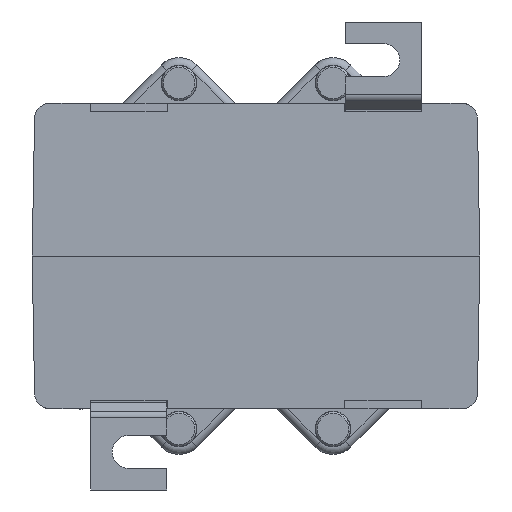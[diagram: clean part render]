
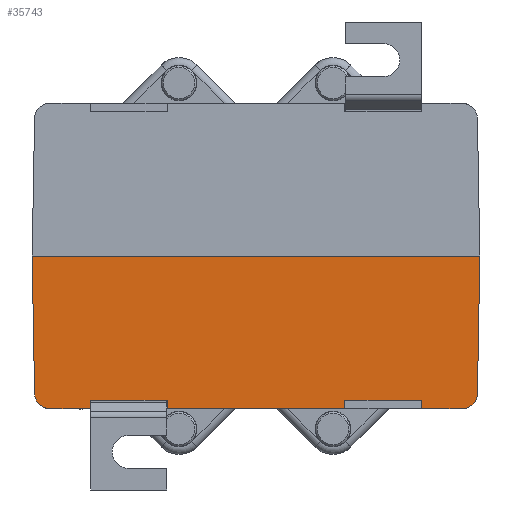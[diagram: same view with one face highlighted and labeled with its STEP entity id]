
A CAD part, front view. The second image highlights one B-rep face of the part: STEP entity #35743.
In plain terms, the highlighted planar face has unit normal (0, -1, -0.018).
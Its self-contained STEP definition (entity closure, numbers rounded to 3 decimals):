
#346=ELLIPSE('',#37993,3.,3.);
#347=ELLIPSE('',#37994,3.,3.);
#2423=LINE('',#59101,#6018);
#2789=LINE('',#61926,#6384);
#2795=LINE('',#61937,#6390);
#2799=LINE('',#61945,#6394);
#2842=LINE('',#62088,#6437);
#2843=LINE('',#62091,#6438);
#2844=LINE('',#62093,#6439);
#2845=LINE('',#62094,#6440);
#2846=LINE('',#62096,#6441);
#2847=LINE('',#62098,#6442);
#2848=LINE('',#62099,#6443);
#2849=LINE('',#62102,#6444);
#6018=VECTOR('',#41153,1000.);
#6384=VECTOR('',#41725,1000.);
#6390=VECTOR('',#41731,1000.);
#6394=VECTOR('',#41735,1000.);
#6437=VECTOR('',#41840,1000.);
#6438=VECTOR('',#41843,1000.);
#6439=VECTOR('',#41844,1000.);
#6440=VECTOR('',#41845,1000.);
#6441=VECTOR('',#41846,1000.);
#6442=VECTOR('',#41847,1000.);
#6443=VECTOR('',#41848,1000.);
#6444=VECTOR('',#41851,1000.);
#9296=PLANE('',#37992);
#10722=FACE_OUTER_BOUND('',#12711,.T.);
#12711=EDGE_LOOP('',(#25776,#25777,#25778,#25779,#25780,#25781,#25782,#25783,
#25784,#25785,#25786,#25787,#25788,#25789));
#15506=VERTEX_POINT('',#59098);
#15507=VERTEX_POINT('',#59100);
#15996=VERTEX_POINT('',#61924);
#15997=VERTEX_POINT('',#61925);
#16001=VERTEX_POINT('',#61934);
#16002=VERTEX_POINT('',#61936);
#16005=VERTEX_POINT('',#61942);
#16006=VERTEX_POINT('',#61944);
#16075=VERTEX_POINT('',#62087);
#16076=VERTEX_POINT('',#62090);
#16077=VERTEX_POINT('',#62092);
#16078=VERTEX_POINT('',#62095);
#16079=VERTEX_POINT('',#62097);
#16080=VERTEX_POINT('',#62100);
#19170=EDGE_CURVE('',#15507,#15506,#2423,.T.);
#19700=EDGE_CURVE('',#15996,#15997,#2789,.T.);
#19706=EDGE_CURVE('',#16001,#16002,#2795,.T.);
#19710=EDGE_CURVE('',#16005,#16006,#2799,.T.);
#19783=EDGE_CURVE('',#16075,#15506,#2842,.T.);
#19784=EDGE_CURVE('',#16075,#15997,#346,.T.);
#19785=EDGE_CURVE('',#15996,#16076,#2843,.T.);
#19786=EDGE_CURVE('',#16077,#16076,#2844,.T.);
#19787=EDGE_CURVE('',#16006,#16077,#2845,.T.);
#19788=EDGE_CURVE('',#16005,#16078,#2846,.T.);
#19789=EDGE_CURVE('',#16079,#16078,#2847,.T.);
#19790=EDGE_CURVE('',#16002,#16079,#2848,.T.);
#19791=EDGE_CURVE('',#16001,#16080,#347,.T.);
#19792=EDGE_CURVE('',#16080,#15507,#2849,.T.);
#25776=ORIENTED_EDGE('',*,*,#19783,.F.);
#25777=ORIENTED_EDGE('',*,*,#19784,.T.);
#25778=ORIENTED_EDGE('',*,*,#19700,.F.);
#25779=ORIENTED_EDGE('',*,*,#19785,.T.);
#25780=ORIENTED_EDGE('',*,*,#19786,.F.);
#25781=ORIENTED_EDGE('',*,*,#19787,.F.);
#25782=ORIENTED_EDGE('',*,*,#19710,.F.);
#25783=ORIENTED_EDGE('',*,*,#19788,.T.);
#25784=ORIENTED_EDGE('',*,*,#19789,.F.);
#25785=ORIENTED_EDGE('',*,*,#19790,.F.);
#25786=ORIENTED_EDGE('',*,*,#19706,.F.);
#25787=ORIENTED_EDGE('',*,*,#19791,.T.);
#25788=ORIENTED_EDGE('',*,*,#19792,.T.);
#25789=ORIENTED_EDGE('',*,*,#19170,.T.);
#35743=ADVANCED_FACE('',(#10722),#9296,.T.);
#37992=AXIS2_PLACEMENT_3D('',#62086,#41838,#41839);
#37993=AXIS2_PLACEMENT_3D('',#62089,#41841,#41842);
#37994=AXIS2_PLACEMENT_3D('',#62101,#41849,#41850);
#41153=DIRECTION('',(-1.,0.,0.));
#41725=DIRECTION('',(-1.,0.,0.));
#41731=DIRECTION('',(-1.,0.,0.));
#41735=DIRECTION('',(-1.,0.,0.));
#41838=DIRECTION('center_axis',(0.,-1.,
-0.017));
#41839=DIRECTION('ref_axis',(0.,-0.017,
1.));
#41840=DIRECTION('',(-0.017,-0.017,1.));
#41841=DIRECTION('center_axis',(0.,-1.,
-0.017));
#41842=DIRECTION('ref_axis',(0.,-0.017,1.));
#41843=DIRECTION('',(0.004,-0.017,1.));
#41844=DIRECTION('',(-1.,0.,0.));
#41845=DIRECTION('',(-0.004,-0.017,1.));
#41846=DIRECTION('',(0.004,-0.017,1.));
#41847=DIRECTION('',(-1.,0.,0.));
#41848=DIRECTION('',(-0.004,-0.017,1.));
#41849=DIRECTION('center_axis',(0.,-1.,
-0.017));
#41850=DIRECTION('ref_axis',(0.,-0.017,1.));
#41851=DIRECTION('',(0.017,-0.017,1.));
#59098=CARTESIAN_POINT('',(-44.,-60.,0.));
#59100=CARTESIAN_POINT('',(44.,-60.,0.));
#59101=CARTESIAN_POINT('',(-44.,-60.,0.));
#61924=CARTESIAN_POINT('',(-32.561,-59.476,-30.));
#61925=CARTESIAN_POINT('',(-40.528,-59.476,-30.));
#61926=CARTESIAN_POINT('',(-44.,-59.476,-30.));
#61934=CARTESIAN_POINT('',(40.528,-59.476,-30.));
#61936=CARTESIAN_POINT('',(32.561,-59.476,-30.));
#61937=CARTESIAN_POINT('',(-44.,-59.476,-30.));
#61942=CARTESIAN_POINT('',(17.439,-59.476,-30.));
#61944=CARTESIAN_POINT('',(-17.439,-59.476,-30.));
#61945=CARTESIAN_POINT('',(-44.,-59.476,-30.));
#62086=CARTESIAN_POINT('Origin',(-44.,-60.,0.));
#62087=CARTESIAN_POINT('',(-43.528,-59.528,-27.052));
#62088=CARTESIAN_POINT('',(-44.,-60.,0.));
#62089=CARTESIAN_POINT('Origin',(-40.528,-59.529,-27.));
#62090=CARTESIAN_POINT('',(-32.554,-59.504,-28.4));
#62091=CARTESIAN_POINT('',(-32.43,-59.999,-0.05));
#62092=CARTESIAN_POINT('',(-17.446,-59.504,-28.4));
#62093=CARTESIAN_POINT('',(-44.,-59.504,-28.4));
#62094=CARTESIAN_POINT('',(-17.5,-59.72,-16.046));
#62095=CARTESIAN_POINT('',(17.446,-59.504,-28.4));
#62096=CARTESIAN_POINT('',(17.5,-59.72,-16.046));
#62097=CARTESIAN_POINT('',(32.554,-59.504,-28.4));
#62098=CARTESIAN_POINT('',(-44.,-59.504,-28.4));
#62099=CARTESIAN_POINT('',(32.429,-60.006,0.333));
#62100=CARTESIAN_POINT('',(43.528,-59.528,-27.052));
#62101=CARTESIAN_POINT('Origin',(40.528,-59.529,-27.));
#62102=CARTESIAN_POINT('',(43.973,-59.973,-1.535));
